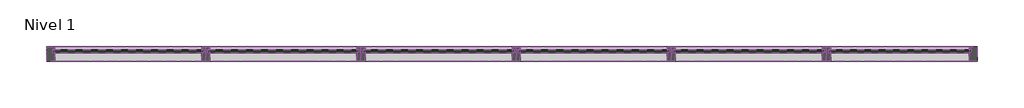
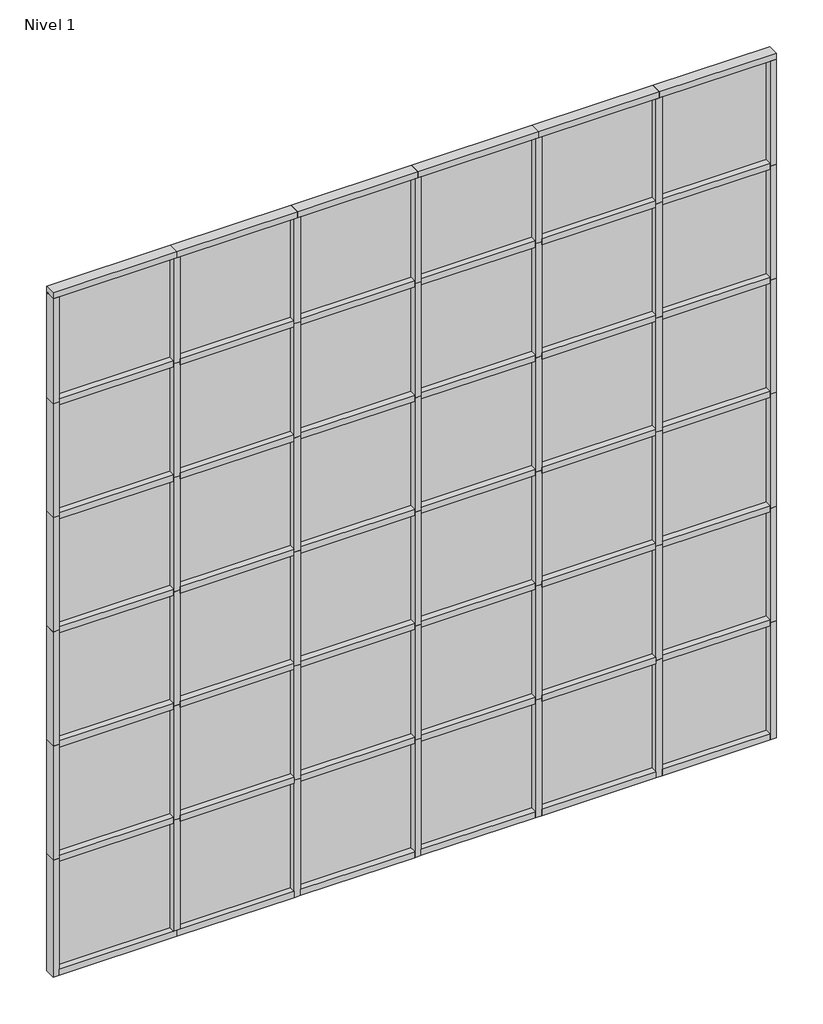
# One storey, part 1 of 12: 84 members, 36 plates.
"""IFC4 building model written with IfcOpenShell, lengths in millimetres."""

from ifc_helpers import new_model, si_unit, origin, place, context, project, spatial, transform, mapped, element, save
from components import montante_rectangular_montante_rectangular_central_30_8_mm_2c331f7a, montante_rectangular_montante_rectangular_central_30_8_mm_c970fd36, montante_rectangular_montante_rectangular_central_30_8_mm_e5800b63, montante_rectangular_montante_rectangular_central_30_8_mm_53c3e57f, montante_rectangular_montante_rectangular_central_30_8_mm_d86f33cf, montante_rectangular_montante_rectangular_central_30_8_mm_2cc1dee6, montante_rectangular_montante_rectangular_extremo_1_30_8_mm_80b4f17c, montante_rectangular_montante_rectangular_extremo_1_30_8_mm_140b2925, montante_rectangular_montante_rectangular_extremo_1_30_8_mm_5074caf2, montante_rectangular_montante_rectangular_extremo_1_30_8_mm_62ab01bd, montante_rectangular_montante_rectangular_extremo_1_30_8_mm_7b62097b, montante_rectangular_montante_rectangular_extremo_1_30_8_mm_4f2bc4b4, plate_e0fb009f, plate_7c9cb06b, plate_31a977c4, plate_dd025fa3

model = new_model("IFC4")

# Units and contexts
model_context = context("Model", 3, world=origin())
ifc_project = project(units=[si_unit("LENGTHUNIT", "METRE", prefix="MILLI")], contexts=[model_context])

# Site, building, storey
site = spatial("IfcSite", under=ifc_project)
building = spatial("IfcBuilding", under=site)
storey = spatial("IfcBuildingStorey", under=building, Name="Nivel 1", Elevation=0.0)

# Members
placement = place(None, origin())
montante_rectangular_montante_rectangular_central_30_8_mm_shape = montante_rectangular_montante_rectangular_central_30_8_mm_2c331f7a(model_context)
element("IfcMember", 1, ObjectType="Montante rectangular : Montante rectangular - Central_30.8 mm", at=placement, inside=storey, context=model_context, shape_type="MappedRepresentation", body=[
    mapped(montante_rectangular_montante_rectangular_central_30_8_mm_shape, transform((-146117.5480244, 4524.4730809, 1540.0), x_axis=(0.0, 0.0, 1.0), y_axis=(0.0, -1.0, 0.0), z_axis=(1.0, 0.0, 0.0))),
])
element("IfcMember", 2, ObjectType="Montante rectangular : Montante rectangular - Central_30.8 mm", at=placement, inside=storey, context=model_context, shape_type="MappedRepresentation", body=[
    mapped(montante_rectangular_montante_rectangular_central_30_8_mm_shape, transform((-144617.5480244, 4524.4730809, 1540.0), x_axis=(0.0, 0.0, 1.0), y_axis=(0.0, -1.0, 0.0), z_axis=(1.0, 0.0, 0.0))),
])
element("IfcMember", 3, ObjectType="Montante rectangular : Montante rectangular - Central_30.8 mm", at=placement, inside=storey, context=model_context, shape_type="MappedRepresentation", body=[
    mapped(montante_rectangular_montante_rectangular_central_30_8_mm_shape, transform((-143117.5480244, 4524.4730809, 1540.0), x_axis=(0.0, 0.0, 1.0), y_axis=(0.0, -1.0, 0.0), z_axis=(1.0, 0.0, 0.0))),
])
element("IfcMember", 4, ObjectType="Montante rectangular : Montante rectangular - Central_30.8 mm", at=placement, inside=storey, context=model_context, shape_type="MappedRepresentation", body=[
    mapped(montante_rectangular_montante_rectangular_central_30_8_mm_shape, transform((-141617.5480244, 4524.4730809, 1540.0), x_axis=(0.0, 0.0, 1.0), y_axis=(0.0, -1.0, 0.0), z_axis=(1.0, 0.0, 0.0))),
])
element("IfcMember", 5, ObjectType="Montante rectangular : Montante rectangular - Central_30.8 mm", at=placement, inside=storey, context=model_context, shape_type="MappedRepresentation", body=[
    mapped(montante_rectangular_montante_rectangular_central_30_8_mm_shape, transform((-140117.5480244, 4524.4730809, 1540.0), x_axis=(0.0, 0.0, 1.0), y_axis=(0.0, -1.0, 0.0), z_axis=(1.0, 0.0, 0.0))),
])
element("IfcMember", 6, ObjectType="Montante rectangular : Montante rectangular - Central_30.8 mm", at=placement, inside=storey, context=model_context, shape_type="MappedRepresentation", body=[
    mapped(montante_rectangular_montante_rectangular_central_30_8_mm_shape, transform((-146117.5480244, 4524.4730809, 3040.0), x_axis=(0.0, 0.0, 1.0), y_axis=(0.0, -1.0, 0.0), z_axis=(1.0, 0.0, 0.0))),
])
element("IfcMember", 7, ObjectType="Montante rectangular : Montante rectangular - Central_30.8 mm", at=placement, inside=storey, context=model_context, shape_type="MappedRepresentation", body=[
    mapped(montante_rectangular_montante_rectangular_central_30_8_mm_shape, transform((-144617.5480244, 4524.4730809, 3040.0), x_axis=(0.0, 0.0, 1.0), y_axis=(0.0, -1.0, 0.0), z_axis=(1.0, 0.0, 0.0))),
])
element("IfcMember", 8, ObjectType="Montante rectangular : Montante rectangular - Central_30.8 mm", at=placement, inside=storey, context=model_context, shape_type="MappedRepresentation", body=[
    mapped(montante_rectangular_montante_rectangular_central_30_8_mm_shape, transform((-143117.5480244, 4524.4730809, 3040.0), x_axis=(0.0, 0.0, 1.0), y_axis=(0.0, -1.0, 0.0), z_axis=(1.0, 0.0, 0.0))),
])
element("IfcMember", 9, ObjectType="Montante rectangular : Montante rectangular - Central_30.8 mm", at=placement, inside=storey, context=model_context, shape_type="MappedRepresentation", body=[
    mapped(montante_rectangular_montante_rectangular_central_30_8_mm_shape, transform((-141617.5480244, 4524.4730809, 3040.0), x_axis=(0.0, 0.0, 1.0), y_axis=(0.0, -1.0, 0.0), z_axis=(1.0, 0.0, 0.0))),
])
element("IfcMember", 10, ObjectType="Montante rectangular : Montante rectangular - Central_30.8 mm", at=placement, inside=storey, context=model_context, shape_type="MappedRepresentation", body=[
    mapped(montante_rectangular_montante_rectangular_central_30_8_mm_shape, transform((-140117.5480244, 4524.4730809, 3040.0), x_axis=(0.0, 0.0, 1.0), y_axis=(0.0, -1.0, 0.0), z_axis=(1.0, 0.0, 0.0))),
])
element("IfcMember", 11, ObjectType="Montante rectangular : Montante rectangular - Central_30.8 mm", at=placement, inside=storey, context=model_context, shape_type="MappedRepresentation", body=[
    mapped(montante_rectangular_montante_rectangular_central_30_8_mm_shape, transform((-146117.5480244, 4524.4730809, 4540.0), x_axis=(0.0, 0.0, 1.0), y_axis=(0.0, -1.0, 0.0), z_axis=(1.0, 0.0, 0.0))),
])
element("IfcMember", 12, ObjectType="Montante rectangular : Montante rectangular - Central_30.8 mm", at=placement, inside=storey, context=model_context, shape_type="MappedRepresentation", body=[
    mapped(montante_rectangular_montante_rectangular_central_30_8_mm_shape, transform((-144617.5480244, 4524.4730809, 4540.0), x_axis=(0.0, 0.0, 1.0), y_axis=(0.0, -1.0, 0.0), z_axis=(1.0, 0.0, 0.0))),
])
element("IfcMember", 13, ObjectType="Montante rectangular : Montante rectangular - Central_30.8 mm", at=placement, inside=storey, context=model_context, shape_type="MappedRepresentation", body=[
    mapped(montante_rectangular_montante_rectangular_central_30_8_mm_shape, transform((-143117.5480244, 4524.4730809, 4540.0), x_axis=(0.0, 0.0, 1.0), y_axis=(0.0, -1.0, 0.0), z_axis=(1.0, 0.0, 0.0))),
])
element("IfcMember", 14, ObjectType="Montante rectangular : Montante rectangular - Central_30.8 mm", at=placement, inside=storey, context=model_context, shape_type="MappedRepresentation", body=[
    mapped(montante_rectangular_montante_rectangular_central_30_8_mm_shape, transform((-141617.5480244, 4524.4730809, 4540.0), x_axis=(0.0, 0.0, 1.0), y_axis=(0.0, -1.0, 0.0), z_axis=(1.0, 0.0, 0.0))),
])
element("IfcMember", 15, ObjectType="Montante rectangular : Montante rectangular - Central_30.8 mm", at=placement, inside=storey, context=model_context, shape_type="MappedRepresentation", body=[
    mapped(montante_rectangular_montante_rectangular_central_30_8_mm_shape, transform((-140117.5480244, 4524.4730809, 4540.0), x_axis=(0.0, 0.0, 1.0), y_axis=(0.0, -1.0, 0.0), z_axis=(1.0, 0.0, 0.0))),
])
element("IfcMember", 16, ObjectType="Montante rectangular : Montante rectangular - Central_30.8 mm", at=placement, inside=storey, context=model_context, shape_type="MappedRepresentation", body=[
    mapped(montante_rectangular_montante_rectangular_central_30_8_mm_shape, transform((-146117.5480244, 4524.4730809, 6040.0), x_axis=(0.0, 0.0, 1.0), y_axis=(0.0, -1.0, 0.0), z_axis=(1.0, 0.0, 0.0))),
])
element("IfcMember", 17, ObjectType="Montante rectangular : Montante rectangular - Central_30.8 mm", at=placement, inside=storey, context=model_context, shape_type="MappedRepresentation", body=[
    mapped(montante_rectangular_montante_rectangular_central_30_8_mm_shape, transform((-144617.5480244, 4524.4730809, 6040.0), x_axis=(0.0, 0.0, 1.0), y_axis=(0.0, -1.0, 0.0), z_axis=(1.0, 0.0, 0.0))),
])
element("IfcMember", 18, ObjectType="Montante rectangular : Montante rectangular - Central_30.8 mm", at=placement, inside=storey, context=model_context, shape_type="MappedRepresentation", body=[
    mapped(montante_rectangular_montante_rectangular_central_30_8_mm_shape, transform((-143117.5480244, 4524.4730809, 6040.0), x_axis=(0.0, 0.0, 1.0), y_axis=(0.0, -1.0, 0.0), z_axis=(1.0, 0.0, 0.0))),
])
element("IfcMember", 19, ObjectType="Montante rectangular : Montante rectangular - Central_30.8 mm", at=placement, inside=storey, context=model_context, shape_type="MappedRepresentation", body=[
    mapped(montante_rectangular_montante_rectangular_central_30_8_mm_shape, transform((-141617.5480244, 4524.4730809, 6040.0), x_axis=(0.0, 0.0, 1.0), y_axis=(0.0, -1.0, 0.0), z_axis=(1.0, 0.0, 0.0))),
])
element("IfcMember", 20, ObjectType="Montante rectangular : Montante rectangular - Central_30.8 mm", at=placement, inside=storey, context=model_context, shape_type="MappedRepresentation", body=[
    mapped(montante_rectangular_montante_rectangular_central_30_8_mm_shape, transform((-140117.5480244, 4524.4730809, 6040.0), x_axis=(0.0, 0.0, 1.0), y_axis=(0.0, -1.0, 0.0), z_axis=(1.0, 0.0, 0.0))),
])
element("IfcMember", 21, ObjectType="Montante rectangular : Montante rectangular - Central_30.8 mm", at=placement, inside=storey, context=model_context, shape_type="MappedRepresentation", body=[
    mapped(montante_rectangular_montante_rectangular_central_30_8_mm_shape, transform((-146117.5480244, 4524.4730809, 7540.0), x_axis=(0.0, 0.0, 1.0), y_axis=(0.0, -1.0, 0.0), z_axis=(1.0, 0.0, 0.0))),
])
element("IfcMember", 22, ObjectType="Montante rectangular : Montante rectangular - Central_30.8 mm", at=placement, inside=storey, context=model_context, shape_type="MappedRepresentation", body=[
    mapped(montante_rectangular_montante_rectangular_central_30_8_mm_shape, transform((-144617.5480244, 4524.4730809, 7540.0), x_axis=(0.0, 0.0, 1.0), y_axis=(0.0, -1.0, 0.0), z_axis=(1.0, 0.0, 0.0))),
])
element("IfcMember", 23, ObjectType="Montante rectangular : Montante rectangular - Central_30.8 mm", at=placement, inside=storey, context=model_context, shape_type="MappedRepresentation", body=[
    mapped(montante_rectangular_montante_rectangular_central_30_8_mm_shape, transform((-143117.5480244, 4524.4730809, 7540.0), x_axis=(0.0, 0.0, 1.0), y_axis=(0.0, -1.0, 0.0), z_axis=(1.0, 0.0, 0.0))),
])
element("IfcMember", 24, ObjectType="Montante rectangular : Montante rectangular - Central_30.8 mm", at=placement, inside=storey, context=model_context, shape_type="MappedRepresentation", body=[
    mapped(montante_rectangular_montante_rectangular_central_30_8_mm_shape, transform((-141617.5480244, 4524.4730809, 7540.0), x_axis=(0.0, 0.0, 1.0), y_axis=(0.0, -1.0, 0.0), z_axis=(1.0, 0.0, 0.0))),
])
element("IfcMember", 25, ObjectType="Montante rectangular : Montante rectangular - Central_30.8 mm", at=placement, inside=storey, context=model_context, shape_type="MappedRepresentation", body=[
    mapped(montante_rectangular_montante_rectangular_central_30_8_mm_shape, transform((-140117.5480244, 4524.4730809, 7540.0), x_axis=(0.0, 0.0, 1.0), y_axis=(0.0, -1.0, 0.0), z_axis=(1.0, 0.0, 0.0))),
])
montante_rectangular_montante_rectangular_central_30_8_mm_2_shape = montante_rectangular_montante_rectangular_central_30_8_mm_c970fd36(model_context)
element("IfcMember", 26, ObjectType="Montante rectangular : Montante rectangular - Central_30.8 mm", at=placement, inside=storey, context=model_context, shape_type="MappedRepresentation", body=[
    mapped(montante_rectangular_montante_rectangular_central_30_8_mm_2_shape, transform((-146077.5480244, 4524.4730809, 80.0), x_axis=(1.0, 0.0, 0.0), y_axis=(0.0, -1.0, 0.0), z_axis=(0.0, 0.0, -1.0))),
])
montante_rectangular_montante_rectangular_central_30_8_mm_3_shape = montante_rectangular_montante_rectangular_central_30_8_mm_e5800b63(model_context)
element("IfcMember", 27, ObjectType="Montante rectangular : Montante rectangular - Central_30.8 mm", at=placement, inside=storey, context=model_context, shape_type="MappedRepresentation", body=[
    mapped(montante_rectangular_montante_rectangular_central_30_8_mm_3_shape, transform((-146077.5480244, 4524.4730809, 1540.0), x_axis=(1.0, 0.0, 0.0), y_axis=(0.0, -1.0, 0.0), z_axis=(0.0, 0.0, -1.0))),
])
element("IfcMember", 28, ObjectType="Montante rectangular : Montante rectangular - Central_30.8 mm", at=placement, inside=storey, context=model_context, shape_type="MappedRepresentation", body=[
    mapped(montante_rectangular_montante_rectangular_central_30_8_mm_3_shape, transform((-144577.5480244, 4524.4730809, 1540.0), x_axis=(1.0, 0.0, 0.0), y_axis=(0.0, -1.0, 0.0), z_axis=(0.0, 0.0, -1.0))),
])
element("IfcMember", 29, ObjectType="Montante rectangular : Montante rectangular - Central_30.8 mm", at=placement, inside=storey, context=model_context, shape_type="MappedRepresentation", body=[
    mapped(montante_rectangular_montante_rectangular_central_30_8_mm_3_shape, transform((-143077.5480244, 4524.4730809, 1540.0), x_axis=(1.0, 0.0, 0.0), y_axis=(0.0, -1.0, 0.0), z_axis=(0.0, 0.0, -1.0))),
])
element("IfcMember", 30, ObjectType="Montante rectangular : Montante rectangular - Central_30.8 mm", at=placement, inside=storey, context=model_context, shape_type="MappedRepresentation", body=[
    mapped(montante_rectangular_montante_rectangular_central_30_8_mm_3_shape, transform((-141577.5480244, 4524.4730809, 1540.0), x_axis=(1.0, 0.0, 0.0), y_axis=(0.0, -1.0, 0.0), z_axis=(0.0, 0.0, -1.0))),
])
element("IfcMember", 31, ObjectType="Montante rectangular : Montante rectangular - Central_30.8 mm", at=placement, inside=storey, context=model_context, shape_type="MappedRepresentation", body=[
    mapped(montante_rectangular_montante_rectangular_central_30_8_mm_3_shape, transform((-140077.5480244, 4524.4730809, 1540.0), x_axis=(1.0, 0.0, 0.0), y_axis=(0.0, -1.0, 0.0), z_axis=(0.0, 0.0, -1.0))),
])
element("IfcMember", 32, ObjectType="Montante rectangular : Montante rectangular - Central_30.8 mm", at=placement, inside=storey, context=model_context, shape_type="MappedRepresentation", body=[
    mapped(montante_rectangular_montante_rectangular_central_30_8_mm_3_shape, transform((-146077.5480244, 4524.4730809, 3040.0), x_axis=(1.0, 0.0, 0.0), y_axis=(0.0, -1.0, 0.0), z_axis=(0.0, 0.0, -1.0))),
])
element("IfcMember", 33, ObjectType="Montante rectangular : Montante rectangular - Central_30.8 mm", at=placement, inside=storey, context=model_context, shape_type="MappedRepresentation", body=[
    mapped(montante_rectangular_montante_rectangular_central_30_8_mm_3_shape, transform((-146077.5480244, 4524.4730809, 4540.0), x_axis=(1.0, 0.0, 0.0), y_axis=(0.0, -1.0, 0.0), z_axis=(0.0, 0.0, -1.0))),
])
element("IfcMember", 34, ObjectType="Montante rectangular : Montante rectangular - Central_30.8 mm", at=placement, inside=storey, context=model_context, shape_type="MappedRepresentation", body=[
    mapped(montante_rectangular_montante_rectangular_central_30_8_mm_3_shape, transform((-146077.5480244, 4524.4730809, 6040.0), x_axis=(1.0, 0.0, 0.0), y_axis=(0.0, -1.0, 0.0), z_axis=(0.0, 0.0, -1.0))),
])
element("IfcMember", 35, ObjectType="Montante rectangular : Montante rectangular - Central_30.8 mm", at=placement, inside=storey, context=model_context, shape_type="MappedRepresentation", body=[
    mapped(montante_rectangular_montante_rectangular_central_30_8_mm_3_shape, transform((-144577.5480244, 4524.4730809, 3040.0), x_axis=(1.0, 0.0, 0.0), y_axis=(0.0, -1.0, 0.0), z_axis=(0.0, 0.0, -1.0))),
])
element("IfcMember", 36, ObjectType="Montante rectangular : Montante rectangular - Central_30.8 mm", at=placement, inside=storey, context=model_context, shape_type="MappedRepresentation", body=[
    mapped(montante_rectangular_montante_rectangular_central_30_8_mm_3_shape, transform((-144577.5480244, 4524.4730809, 4540.0), x_axis=(1.0, 0.0, 0.0), y_axis=(0.0, -1.0, 0.0), z_axis=(0.0, 0.0, -1.0))),
])
element("IfcMember", 37, ObjectType="Montante rectangular : Montante rectangular - Central_30.8 mm", at=placement, inside=storey, context=model_context, shape_type="MappedRepresentation", body=[
    mapped(montante_rectangular_montante_rectangular_central_30_8_mm_3_shape, transform((-144577.5480244, 4524.4730809, 6040.0), x_axis=(1.0, 0.0, 0.0), y_axis=(0.0, -1.0, 0.0), z_axis=(0.0, 0.0, -1.0))),
])
element("IfcMember", 38, ObjectType="Montante rectangular : Montante rectangular - Central_30.8 mm", at=placement, inside=storey, context=model_context, shape_type="MappedRepresentation", body=[
    mapped(montante_rectangular_montante_rectangular_central_30_8_mm_3_shape, transform((-143077.5480244, 4524.4730809, 3040.0), x_axis=(1.0, 0.0, 0.0), y_axis=(0.0, -1.0, 0.0), z_axis=(0.0, 0.0, -1.0))),
])
element("IfcMember", 39, ObjectType="Montante rectangular : Montante rectangular - Central_30.8 mm", at=placement, inside=storey, context=model_context, shape_type="MappedRepresentation", body=[
    mapped(montante_rectangular_montante_rectangular_central_30_8_mm_3_shape, transform((-143077.5480244, 4524.4730809, 4540.0), x_axis=(1.0, 0.0, 0.0), y_axis=(0.0, -1.0, 0.0), z_axis=(0.0, 0.0, -1.0))),
])
element("IfcMember", 40, ObjectType="Montante rectangular : Montante rectangular - Central_30.8 mm", at=placement, inside=storey, context=model_context, shape_type="MappedRepresentation", body=[
    mapped(montante_rectangular_montante_rectangular_central_30_8_mm_3_shape, transform((-143077.5480244, 4524.4730809, 6040.0), x_axis=(1.0, 0.0, 0.0), y_axis=(0.0, -1.0, 0.0), z_axis=(0.0, 0.0, -1.0))),
])
element("IfcMember", 41, ObjectType="Montante rectangular : Montante rectangular - Central_30.8 mm", at=placement, inside=storey, context=model_context, shape_type="MappedRepresentation", body=[
    mapped(montante_rectangular_montante_rectangular_central_30_8_mm_3_shape, transform((-141577.5480244, 4524.4730809, 3040.0), x_axis=(1.0, 0.0, 0.0), y_axis=(0.0, -1.0, 0.0), z_axis=(0.0, 0.0, -1.0))),
])
element("IfcMember", 42, ObjectType="Montante rectangular : Montante rectangular - Central_30.8 mm", at=placement, inside=storey, context=model_context, shape_type="MappedRepresentation", body=[
    mapped(montante_rectangular_montante_rectangular_central_30_8_mm_3_shape, transform((-141577.5480244, 4524.4730809, 4540.0), x_axis=(1.0, 0.0, 0.0), y_axis=(0.0, -1.0, 0.0), z_axis=(0.0, 0.0, -1.0))),
])
element("IfcMember", 43, ObjectType="Montante rectangular : Montante rectangular - Central_30.8 mm", at=placement, inside=storey, context=model_context, shape_type="MappedRepresentation", body=[
    mapped(montante_rectangular_montante_rectangular_central_30_8_mm_3_shape, transform((-141577.5480244, 4524.4730809, 6040.0), x_axis=(1.0, 0.0, 0.0), y_axis=(0.0, -1.0, 0.0), z_axis=(0.0, 0.0, -1.0))),
])
element("IfcMember", 44, ObjectType="Montante rectangular : Montante rectangular - Central_30.8 mm", at=placement, inside=storey, context=model_context, shape_type="MappedRepresentation", body=[
    mapped(montante_rectangular_montante_rectangular_central_30_8_mm_3_shape, transform((-140077.5480244, 4524.4730809, 3040.0), x_axis=(1.0, 0.0, 0.0), y_axis=(0.0, -1.0, 0.0), z_axis=(0.0, 0.0, -1.0))),
])
element("IfcMember", 45, ObjectType="Montante rectangular : Montante rectangular - Central_30.8 mm", at=placement, inside=storey, context=model_context, shape_type="MappedRepresentation", body=[
    mapped(montante_rectangular_montante_rectangular_central_30_8_mm_3_shape, transform((-140077.5480244, 4524.4730809, 4540.0), x_axis=(1.0, 0.0, 0.0), y_axis=(0.0, -1.0, 0.0), z_axis=(0.0, 0.0, -1.0))),
])
element("IfcMember", 46, ObjectType="Montante rectangular : Montante rectangular - Central_30.8 mm", at=placement, inside=storey, context=model_context, shape_type="MappedRepresentation", body=[
    mapped(montante_rectangular_montante_rectangular_central_30_8_mm_3_shape, transform((-140077.5480244, 4524.4730809, 6040.0), x_axis=(1.0, 0.0, 0.0), y_axis=(0.0, -1.0, 0.0), z_axis=(0.0, 0.0, -1.0))),
])
montante_rectangular_montante_rectangular_central_30_8_mm_4_shape = montante_rectangular_montante_rectangular_central_30_8_mm_53c3e57f(model_context)
element("IfcMember", 47, ObjectType="Montante rectangular : Montante rectangular - Central_30.8 mm", at=placement, inside=storey, context=model_context, shape_type="MappedRepresentation", body=[
    mapped(montante_rectangular_montante_rectangular_central_30_8_mm_4_shape, transform((-144577.5480244, 4524.4730809, 0.0), x_axis=(1.0, 0.0, 0.0), y_axis=(0.0, -1.0, 0.0), z_axis=(0.0, 0.0, -1.0))),
])
element("IfcMember", 48, ObjectType="Montante rectangular : Montante rectangular - Central_30.8 mm", at=placement, inside=storey, context=model_context, shape_type="MappedRepresentation", body=[
    mapped(montante_rectangular_montante_rectangular_central_30_8_mm_4_shape, transform((-143077.5480244, 4524.4730809, 0.0), x_axis=(1.0, 0.0, 0.0), y_axis=(0.0, -1.0, 0.0), z_axis=(0.0, 0.0, -1.0))),
])
element("IfcMember", 49, ObjectType="Montante rectangular : Montante rectangular - Central_30.8 mm", at=placement, inside=storey, context=model_context, shape_type="MappedRepresentation", body=[
    mapped(montante_rectangular_montante_rectangular_central_30_8_mm_4_shape, transform((-141577.5480244, 4524.4730809, 0.0), x_axis=(1.0, 0.0, 0.0), y_axis=(0.0, -1.0, 0.0), z_axis=(0.0, 0.0, -1.0))),
])
element("IfcMember", 50, ObjectType="Montante rectangular : Montante rectangular - Central_30.8 mm", at=placement, inside=storey, context=model_context, shape_type="MappedRepresentation", body=[
    mapped(montante_rectangular_montante_rectangular_central_30_8_mm_4_shape, transform((-140077.5480244, 4524.4730809, 0.0), x_axis=(1.0, 0.0, 0.0), y_axis=(0.0, -1.0, 0.0), z_axis=(0.0, 0.0, -1.0))),
])
montante_rectangular_montante_rectangular_central_30_8_mm_5_shape = montante_rectangular_montante_rectangular_central_30_8_mm_d86f33cf(model_context)
element("IfcMember", 51, ObjectType="Montante rectangular : Montante rectangular - Central_30.8 mm", at=placement, inside=storey, context=model_context, shape_type="MappedRepresentation", body=[
    mapped(montante_rectangular_montante_rectangular_central_30_8_mm_5_shape, transform((-138697.5480244, 4524.4730809, 1540.0), x_axis=(0.0, 0.0, 1.0), y_axis=(0.0, -1.0, 0.0), z_axis=(1.0, 0.0, 0.0))),
])
element("IfcMember", 52, ObjectType="Montante rectangular : Montante rectangular - Central_30.8 mm", at=placement, inside=storey, context=model_context, shape_type="MappedRepresentation", body=[
    mapped(montante_rectangular_montante_rectangular_central_30_8_mm_5_shape, transform((-138697.5480244, 4524.4730809, 3040.0), x_axis=(0.0, 0.0, 1.0), y_axis=(0.0, -1.0, 0.0), z_axis=(1.0, 0.0, 0.0))),
])
element("IfcMember", 53, ObjectType="Montante rectangular : Montante rectangular - Central_30.8 mm", at=placement, inside=storey, context=model_context, shape_type="MappedRepresentation", body=[
    mapped(montante_rectangular_montante_rectangular_central_30_8_mm_5_shape, transform((-138697.5480244, 4524.4730809, 4540.0), x_axis=(0.0, 0.0, 1.0), y_axis=(0.0, -1.0, 0.0), z_axis=(1.0, 0.0, 0.0))),
])
element("IfcMember", 54, ObjectType="Montante rectangular : Montante rectangular - Central_30.8 mm", at=placement, inside=storey, context=model_context, shape_type="MappedRepresentation", body=[
    mapped(montante_rectangular_montante_rectangular_central_30_8_mm_5_shape, transform((-138697.5480244, 4524.4730809, 6040.0), x_axis=(0.0, 0.0, 1.0), y_axis=(0.0, -1.0, 0.0), z_axis=(1.0, 0.0, 0.0))),
])
element("IfcMember", 55, ObjectType="Montante rectangular : Montante rectangular - Central_30.8 mm", at=placement, inside=storey, context=model_context, shape_type="MappedRepresentation", body=[
    mapped(montante_rectangular_montante_rectangular_central_30_8_mm_5_shape, transform((-138697.5480244, 4524.4730809, 7540.0), x_axis=(0.0, 0.0, 1.0), y_axis=(0.0, -1.0, 0.0), z_axis=(1.0, 0.0, 0.0))),
])
montante_rectangular_montante_rectangular_central_30_8_mm_6_shape = montante_rectangular_montante_rectangular_central_30_8_mm_2cc1dee6(model_context)
element("IfcMember", 56, ObjectType="Montante rectangular : Montante rectangular - Central_30.8 mm", at=placement, inside=storey, context=model_context, shape_type="MappedRepresentation", body=[
    mapped(montante_rectangular_montante_rectangular_central_30_8_mm_6_shape, transform((-146077.5480244, 4524.4730809, 7540.0), x_axis=(1.0, 0.0, 0.0), y_axis=(0.0, -1.0, 0.0), z_axis=(0.0, 0.0, -1.0))),
])
element("IfcMember", 57, ObjectType="Montante rectangular : Montante rectangular - Central_30.8 mm", at=placement, inside=storey, context=model_context, shape_type="MappedRepresentation", body=[
    mapped(montante_rectangular_montante_rectangular_central_30_8_mm_6_shape, transform((-144577.5480244, 4524.4730809, 7540.0), x_axis=(1.0, 0.0, 0.0), y_axis=(0.0, -1.0, 0.0), z_axis=(0.0, 0.0, -1.0))),
])
element("IfcMember", 58, ObjectType="Montante rectangular : Montante rectangular - Central_30.8 mm", at=placement, inside=storey, context=model_context, shape_type="MappedRepresentation", body=[
    mapped(montante_rectangular_montante_rectangular_central_30_8_mm_6_shape, transform((-143077.5480244, 4524.4730809, 7540.0), x_axis=(1.0, 0.0, 0.0), y_axis=(0.0, -1.0, 0.0), z_axis=(0.0, 0.0, -1.0))),
])
element("IfcMember", 59, ObjectType="Montante rectangular : Montante rectangular - Central_30.8 mm", at=placement, inside=storey, context=model_context, shape_type="MappedRepresentation", body=[
    mapped(montante_rectangular_montante_rectangular_central_30_8_mm_6_shape, transform((-141577.5480244, 4524.4730809, 7540.0), x_axis=(1.0, 0.0, 0.0), y_axis=(0.0, -1.0, 0.0), z_axis=(0.0, 0.0, -1.0))),
])
element("IfcMember", 60, ObjectType="Montante rectangular : Montante rectangular - Central_30.8 mm", at=placement, inside=storey, context=model_context, shape_type="MappedRepresentation", body=[
    mapped(montante_rectangular_montante_rectangular_central_30_8_mm_6_shape, transform((-140077.5480244, 4524.4730809, 7540.0), x_axis=(1.0, 0.0, 0.0), y_axis=(0.0, -1.0, 0.0), z_axis=(0.0, 0.0, -1.0))),
])
montante_rectangular_montante_rectangular_extremo_1_30_8_mm_shape = montante_rectangular_montante_rectangular_extremo_1_30_8_mm_80b4f17c(model_context)
element("IfcMember", 61, ObjectType="Montante rectangular : Montante rectangular - Extremo 1_30.8 mm", at=placement, inside=storey, context=model_context, shape_type="MappedRepresentation", body=[
    mapped(montante_rectangular_montante_rectangular_extremo_1_30_8_mm_shape, transform((-147537.5480244, 4524.4730809, 0.0), x_axis=(0.0, 0.0, -1.0), y_axis=(0.0, -1.0, 0.0), z_axis=(-1.0, 0.0, 0.0))),
])
element("IfcMember", 62, ObjectType="Montante rectangular : Montante rectangular - Extremo 1_30.8 mm", at=placement, inside=storey, context=model_context, shape_type="MappedRepresentation", body=[
    mapped(montante_rectangular_montante_rectangular_extremo_1_30_8_mm_shape, transform((-146077.5480244, 4524.4730809, 0.0), x_axis=(0.0, 0.0, -1.0), y_axis=(0.0, -1.0, 0.0), z_axis=(-1.0, 0.0, 0.0))),
])
montante_rectangular_montante_rectangular_extremo_1_30_8_mm_2_shape = montante_rectangular_montante_rectangular_extremo_1_30_8_mm_140b2925(model_context)
element("IfcMember", 63, ObjectType="Montante rectangular : Montante rectangular - Extremo 1_30.8 mm", at=placement, inside=storey, context=model_context, shape_type="MappedRepresentation", body=[
    mapped(montante_rectangular_montante_rectangular_extremo_1_30_8_mm_2_shape, transform((-144537.5480244, 4524.4730809, 0.0), x_axis=(0.0, 0.0, -1.0), y_axis=(0.0, -1.0, 0.0), z_axis=(-1.0, 0.0, 0.0))),
])
element("IfcMember", 64, ObjectType="Montante rectangular : Montante rectangular - Extremo 1_30.8 mm", at=placement, inside=storey, context=model_context, shape_type="MappedRepresentation", body=[
    mapped(montante_rectangular_montante_rectangular_extremo_1_30_8_mm_2_shape, transform((-143037.5480244, 4524.4730809, 0.0), x_axis=(0.0, 0.0, -1.0), y_axis=(0.0, -1.0, 0.0), z_axis=(-1.0, 0.0, 0.0))),
])
element("IfcMember", 65, ObjectType="Montante rectangular : Montante rectangular - Extremo 1_30.8 mm", at=placement, inside=storey, context=model_context, shape_type="MappedRepresentation", body=[
    mapped(montante_rectangular_montante_rectangular_extremo_1_30_8_mm_2_shape, transform((-141537.5480244, 4524.4730809, 0.0), x_axis=(0.0, 0.0, -1.0), y_axis=(0.0, -1.0, 0.0), z_axis=(-1.0, 0.0, 0.0))),
])
montante_rectangular_montante_rectangular_extremo_1_30_8_mm_3_shape = montante_rectangular_montante_rectangular_extremo_1_30_8_mm_5074caf2(model_context)
element("IfcMember", 66, ObjectType="Montante rectangular : Montante rectangular - Extremo 1_30.8 mm", at=placement, inside=storey, context=model_context, shape_type="MappedRepresentation", body=[
    mapped(montante_rectangular_montante_rectangular_extremo_1_30_8_mm_3_shape, transform((-140037.5480244, 4524.4730809, 0.0), x_axis=(0.0, 0.0, -1.0), y_axis=(0.0, -1.0, 0.0), z_axis=(-1.0, 0.0, 0.0))),
])
montante_rectangular_montante_rectangular_extremo_1_30_8_mm_4_shape = montante_rectangular_montante_rectangular_extremo_1_30_8_mm_62ab01bd(model_context)
element("IfcMember", 67, ObjectType="Montante rectangular : Montante rectangular - Extremo 1_30.8 mm", at=placement, inside=storey, context=model_context, shape_type="MappedRepresentation", body=[
    mapped(montante_rectangular_montante_rectangular_extremo_1_30_8_mm_4_shape, transform((-147617.5480244, 4524.4730809, 8920.0), x_axis=(-1.0, 0.0, 0.0), y_axis=(0.0, -1.0, 0.0), z_axis=(0.0, 0.0, 1.0))),
])
montante_rectangular_montante_rectangular_extremo_1_30_8_mm_5_shape = montante_rectangular_montante_rectangular_extremo_1_30_8_mm_7b62097b(model_context)
element("IfcMember", 68, ObjectType="Montante rectangular : Montante rectangular - Extremo 1_30.8 mm", at=placement, inside=storey, context=model_context, shape_type="MappedRepresentation", body=[
    mapped(montante_rectangular_montante_rectangular_extremo_1_30_8_mm_5_shape, transform((-147617.5480244, 4524.4730809, 1540.0), x_axis=(-1.0, 0.0, 0.0), y_axis=(0.0, -1.0, 0.0), z_axis=(0.0, 0.0, 1.0))),
])
montante_rectangular_montante_rectangular_extremo_1_30_8_mm_6_shape = montante_rectangular_montante_rectangular_extremo_1_30_8_mm_4f2bc4b4(model_context)
element("IfcMember", 69, ObjectType="Montante rectangular : Montante rectangular - Extremo 1_30.8 mm", at=placement, inside=storey, context=model_context, shape_type="MappedRepresentation", body=[
    mapped(montante_rectangular_montante_rectangular_extremo_1_30_8_mm_6_shape, transform((-147617.5480244, 4524.4730809, 3040.0), x_axis=(-1.0, 0.0, 0.0), y_axis=(0.0, -1.0, 0.0), z_axis=(0.0, 0.0, 1.0))),
])
element("IfcMember", 70, ObjectType="Montante rectangular : Montante rectangular - Extremo 1_30.8 mm", at=placement, inside=storey, context=model_context, shape_type="MappedRepresentation", body=[
    mapped(montante_rectangular_montante_rectangular_extremo_1_30_8_mm_6_shape, transform((-147617.5480244, 4524.4730809, 4540.0), x_axis=(-1.0, 0.0, 0.0), y_axis=(0.0, -1.0, 0.0), z_axis=(0.0, 0.0, 1.0))),
])
element("IfcMember", 71, ObjectType="Montante rectangular : Montante rectangular - Extremo 1_30.8 mm", at=placement, inside=storey, context=model_context, shape_type="MappedRepresentation", body=[
    mapped(montante_rectangular_montante_rectangular_extremo_1_30_8_mm_6_shape, transform((-147617.5480244, 4524.4730809, 6040.0), x_axis=(-1.0, 0.0, 0.0), y_axis=(0.0, -1.0, 0.0), z_axis=(0.0, 0.0, 1.0))),
])
element("IfcMember", 72, ObjectType="Montante rectangular : Montante rectangular - Extremo 1_30.8 mm", at=placement, inside=storey, context=model_context, shape_type="MappedRepresentation", body=[
    mapped(montante_rectangular_montante_rectangular_extremo_1_30_8_mm_6_shape, transform((-147617.5480244, 4524.4730809, 7540.0), x_axis=(-1.0, 0.0, 0.0), y_axis=(0.0, -1.0, 0.0), z_axis=(0.0, 0.0, 1.0))),
])
element("IfcMember", 73, ObjectType="Montante rectangular : Montante rectangular - Extremo 2_30.8 mm", at=placement, inside=storey, context=model_context, shape_type="MappedRepresentation", body=[
    mapped(montante_rectangular_montante_rectangular_extremo_1_30_8_mm_shape, transform((-138617.5480244, 4524.4730809, 9000.0), x_axis=(0.0, 0.0, 1.0), y_axis=(0.0, -1.0, 0.0), z_axis=(1.0, 0.0, 0.0))),
])
element("IfcMember", 74, ObjectType="Montante rectangular : Montante rectangular - Extremo 2_30.8 mm", at=placement, inside=storey, context=model_context, shape_type="MappedRepresentation", body=[
    mapped(montante_rectangular_montante_rectangular_extremo_1_30_8_mm_5_shape, transform((-146077.5480244, 4524.4730809, 9000.0), x_axis=(0.0, 0.0, 1.0), y_axis=(0.0, -1.0, 0.0), z_axis=(1.0, 0.0, 0.0))),
])
element("IfcMember", 75, ObjectType="Montante rectangular : Montante rectangular - Extremo 2_30.8 mm", at=placement, inside=storey, context=model_context, shape_type="MappedRepresentation", body=[
    mapped(montante_rectangular_montante_rectangular_extremo_1_30_8_mm_6_shape, transform((-144577.5480244, 4524.4730809, 9000.0), x_axis=(0.0, 0.0, 1.0), y_axis=(0.0, -1.0, 0.0), z_axis=(1.0, 0.0, 0.0))),
])
element("IfcMember", 76, ObjectType="Montante rectangular : Montante rectangular - Extremo 2_30.8 mm", at=placement, inside=storey, context=model_context, shape_type="MappedRepresentation", body=[
    mapped(montante_rectangular_montante_rectangular_extremo_1_30_8_mm_6_shape, transform((-143077.5480244, 4524.4730809, 9000.0), x_axis=(0.0, 0.0, 1.0), y_axis=(0.0, -1.0, 0.0), z_axis=(1.0, 0.0, 0.0))),
])
element("IfcMember", 77, ObjectType="Montante rectangular : Montante rectangular - Extremo 2_30.8 mm", at=placement, inside=storey, context=model_context, shape_type="MappedRepresentation", body=[
    mapped(montante_rectangular_montante_rectangular_extremo_1_30_8_mm_6_shape, transform((-141577.5480244, 4524.4730809, 9000.0), x_axis=(0.0, 0.0, 1.0), y_axis=(0.0, -1.0, 0.0), z_axis=(1.0, 0.0, 0.0))),
])
element("IfcMember", 78, ObjectType="Montante rectangular : Montante rectangular - Extremo 2_30.8 mm", at=placement, inside=storey, context=model_context, shape_type="MappedRepresentation", body=[
    mapped(montante_rectangular_montante_rectangular_extremo_1_30_8_mm_6_shape, transform((-140077.5480244, 4524.4730809, 9000.0), x_axis=(0.0, 0.0, 1.0), y_axis=(0.0, -1.0, 0.0), z_axis=(1.0, 0.0, 0.0))),
])
element("IfcMember", 79, ObjectType="Montante rectangular : Montante rectangular - Extremo 2_30.8 mm", at=placement, inside=storey, context=model_context, shape_type="MappedRepresentation", body=[
    mapped(montante_rectangular_montante_rectangular_extremo_1_30_8_mm_5_shape, transform((-138617.5480244, 4524.4730809, 0.0), x_axis=(1.0, 0.0, 0.0), y_axis=(0.0, -1.0, 0.0), z_axis=(0.0, 0.0, -1.0))),
])
element("IfcMember", 80, ObjectType="Montante rectangular : Montante rectangular - Extremo 2_30.8 mm", at=placement, inside=storey, context=model_context, shape_type="MappedRepresentation", body=[
    mapped(montante_rectangular_montante_rectangular_extremo_1_30_8_mm_6_shape, transform((-138617.5480244, 4524.4730809, 1540.0), x_axis=(1.0, 0.0, 0.0), y_axis=(0.0, -1.0, 0.0), z_axis=(0.0, 0.0, -1.0))),
])
element("IfcMember", 81, ObjectType="Montante rectangular : Montante rectangular - Extremo 2_30.8 mm", at=placement, inside=storey, context=model_context, shape_type="MappedRepresentation", body=[
    mapped(montante_rectangular_montante_rectangular_extremo_1_30_8_mm_6_shape, transform((-138617.5480244, 4524.4730809, 3040.0), x_axis=(1.0, 0.0, 0.0), y_axis=(0.0, -1.0, 0.0), z_axis=(0.0, 0.0, -1.0))),
])
element("IfcMember", 82, ObjectType="Montante rectangular : Montante rectangular - Extremo 2_30.8 mm", at=placement, inside=storey, context=model_context, shape_type="MappedRepresentation", body=[
    mapped(montante_rectangular_montante_rectangular_extremo_1_30_8_mm_6_shape, transform((-138617.5480244, 4524.4730809, 4540.0), x_axis=(1.0, 0.0, 0.0), y_axis=(0.0, -1.0, 0.0), z_axis=(0.0, 0.0, -1.0))),
])
element("IfcMember", 83, ObjectType="Montante rectangular : Montante rectangular - Extremo 2_30.8 mm", at=placement, inside=storey, context=model_context, shape_type="MappedRepresentation", body=[
    mapped(montante_rectangular_montante_rectangular_extremo_1_30_8_mm_6_shape, transform((-138617.5480244, 4524.4730809, 6040.0), x_axis=(1.0, 0.0, 0.0), y_axis=(0.0, -1.0, 0.0), z_axis=(0.0, 0.0, -1.0))),
])
element("IfcMember", 84, ObjectType="Montante rectangular : Montante rectangular - Extremo 2_30.8 mm", at=placement, inside=storey, context=model_context, shape_type="MappedRepresentation", body=[
    mapped(montante_rectangular_montante_rectangular_extremo_1_30_8_mm_4_shape, transform((-138617.5480244, 4524.4730809, 7540.0), x_axis=(1.0, 0.0, 0.0), y_axis=(0.0, -1.0, 0.0), z_axis=(0.0, 0.0, -1.0))),
])

# Plates
plate_shape = plate_e0fb009f(model_context)
element("IfcPlate", 85, ObjectType="2014_Panel-Cristal-MC_SGG_COOL-LITE-ST 408 : CLIMALIT PLUS con COOL LITE ST 408 F2 6 (16 argon90%) 44.2", at=placement, inside=storey, context=model_context, shape_type="MappedRepresentation", body=[
    mapped(plate_shape, transform((-146827.5480244, 4524.4730809, 80.0), x_axis=(1.0, 0.0, 0.0), y_axis=(0.0, 1.0, 0.0), z_axis=(0.0, 0.0, 1.0))),
])
element("IfcPlate", 86, ObjectType="2014_Panel-Cristal-MC_SGG_COOL-LITE-ST 408 : CLIMALIT PLUS con COOL LITE ST 408 F2 6 (16 argon90%) 44.2", at=placement, inside=storey, context=model_context, shape_type="MappedRepresentation", body=[
    mapped(plate_shape, transform((-146827.5480244, 4524.4730809, 1580.0), x_axis=(1.0, 0.0, 0.0), y_axis=(0.0, 1.0, 0.0), z_axis=(0.0, 0.0, 1.0))),
])
element("IfcPlate", 87, ObjectType="2014_Panel-Cristal-MC_SGG_COOL-LITE-ST 408 : CLIMALIT PLUS con COOL LITE ST 408 F2 6 (16 argon90%) 44.2", at=placement, inside=storey, context=model_context, shape_type="MappedRepresentation", body=[
    mapped(plate_shape, transform((-146827.5480244, 4524.4730809, 3080.0), x_axis=(1.0, 0.0, 0.0), y_axis=(0.0, 1.0, 0.0), z_axis=(0.0, 0.0, 1.0))),
])
element("IfcPlate", 88, ObjectType="2014_Panel-Cristal-MC_SGG_COOL-LITE-ST 408 : CLIMALIT PLUS con COOL LITE ST 408 F2 6 (16 argon90%) 44.2", at=placement, inside=storey, context=model_context, shape_type="MappedRepresentation", body=[
    mapped(plate_shape, transform((-146827.5480244, 4524.4730809, 4580.0), x_axis=(1.0, 0.0, 0.0), y_axis=(0.0, 1.0, 0.0), z_axis=(0.0, 0.0, 1.0))),
])
element("IfcPlate", 89, ObjectType="2014_Panel-Cristal-MC_SGG_COOL-LITE-ST 408 : CLIMALIT PLUS con COOL LITE ST 408 F2 6 (16 argon90%) 44.2", at=placement, inside=storey, context=model_context, shape_type="MappedRepresentation", body=[
    mapped(plate_shape, transform((-146827.5480244, 4524.4730809, 6080.0), x_axis=(1.0, 0.0, 0.0), y_axis=(0.0, 1.0, 0.0), z_axis=(0.0, 0.0, 1.0))),
])
element("IfcPlate", 90, ObjectType="2014_Panel-Cristal-MC_SGG_COOL-LITE-ST 408 : CLIMALIT PLUS con COOL LITE ST 408 F2 6 (16 argon90%) 44.2", at=placement, inside=storey, context=model_context, shape_type="MappedRepresentation", body=[
    mapped(plate_shape, transform((-145327.5480244, 4524.4730809, 80.0), x_axis=(1.0, 0.0, 0.0), y_axis=(0.0, 1.0, 0.0), z_axis=(0.0, 0.0, 1.0))),
])
element("IfcPlate", 91, ObjectType="2014_Panel-Cristal-MC_SGG_COOL-LITE-ST 408 : CLIMALIT PLUS con COOL LITE ST 408 F2 6 (16 argon90%) 44.2", at=placement, inside=storey, context=model_context, shape_type="MappedRepresentation", body=[
    mapped(plate_shape, transform((-145327.5480244, 4524.4730809, 1580.0), x_axis=(1.0, 0.0, 0.0), y_axis=(0.0, 1.0, 0.0), z_axis=(0.0, 0.0, 1.0))),
])
element("IfcPlate", 92, ObjectType="2014_Panel-Cristal-MC_SGG_COOL-LITE-ST 408 : CLIMALIT PLUS con COOL LITE ST 408 F2 6 (16 argon90%) 44.2", at=placement, inside=storey, context=model_context, shape_type="MappedRepresentation", body=[
    mapped(plate_shape, transform((-145327.5480244, 4524.4730809, 3080.0), x_axis=(1.0, 0.0, 0.0), y_axis=(0.0, 1.0, 0.0), z_axis=(0.0, 0.0, 1.0))),
])
element("IfcPlate", 93, ObjectType="2014_Panel-Cristal-MC_SGG_COOL-LITE-ST 408 : CLIMALIT PLUS con COOL LITE ST 408 F2 6 (16 argon90%) 44.2", at=placement, inside=storey, context=model_context, shape_type="MappedRepresentation", body=[
    mapped(plate_shape, transform((-145327.5480244, 4524.4730809, 4580.0), x_axis=(1.0, 0.0, 0.0), y_axis=(0.0, 1.0, 0.0), z_axis=(0.0, 0.0, 1.0))),
])
element("IfcPlate", 94, ObjectType="2014_Panel-Cristal-MC_SGG_COOL-LITE-ST 408 : CLIMALIT PLUS con COOL LITE ST 408 F2 6 (16 argon90%) 44.2", at=placement, inside=storey, context=model_context, shape_type="MappedRepresentation", body=[
    mapped(plate_shape, transform((-145327.5480244, 4524.4730809, 6080.0), x_axis=(1.0, 0.0, 0.0), y_axis=(0.0, 1.0, 0.0), z_axis=(0.0, 0.0, 1.0))),
])
element("IfcPlate", 95, ObjectType="2014_Panel-Cristal-MC_SGG_COOL-LITE-ST 408 : CLIMALIT PLUS con COOL LITE ST 408 F2 6 (16 argon90%) 44.2", at=placement, inside=storey, context=model_context, shape_type="MappedRepresentation", body=[
    mapped(plate_shape, transform((-143827.5480244, 4524.4730809, 80.0), x_axis=(1.0, 0.0, 0.0), y_axis=(0.0, 1.0, 0.0), z_axis=(0.0, 0.0, 1.0))),
])
element("IfcPlate", 96, ObjectType="2014_Panel-Cristal-MC_SGG_COOL-LITE-ST 408 : CLIMALIT PLUS con COOL LITE ST 408 F2 6 (16 argon90%) 44.2", at=placement, inside=storey, context=model_context, shape_type="MappedRepresentation", body=[
    mapped(plate_shape, transform((-143827.5480244, 4524.4730809, 1580.0), x_axis=(1.0, 0.0, 0.0), y_axis=(0.0, 1.0, 0.0), z_axis=(0.0, 0.0, 1.0))),
])
element("IfcPlate", 97, ObjectType="2014_Panel-Cristal-MC_SGG_COOL-LITE-ST 408 : CLIMALIT PLUS con COOL LITE ST 408 F2 6 (16 argon90%) 44.2", at=placement, inside=storey, context=model_context, shape_type="MappedRepresentation", body=[
    mapped(plate_shape, transform((-143827.5480244, 4524.4730809, 3080.0), x_axis=(1.0, 0.0, 0.0), y_axis=(0.0, 1.0, 0.0), z_axis=(0.0, 0.0, 1.0))),
])
element("IfcPlate", 98, ObjectType="2014_Panel-Cristal-MC_SGG_COOL-LITE-ST 408 : CLIMALIT PLUS con COOL LITE ST 408 F2 6 (16 argon90%) 44.2", at=placement, inside=storey, context=model_context, shape_type="MappedRepresentation", body=[
    mapped(plate_shape, transform((-143827.5480244, 4524.4730809, 4580.0), x_axis=(1.0, 0.0, 0.0), y_axis=(0.0, 1.0, 0.0), z_axis=(0.0, 0.0, 1.0))),
])
element("IfcPlate", 99, ObjectType="2014_Panel-Cristal-MC_SGG_COOL-LITE-ST 408 : CLIMALIT PLUS con COOL LITE ST 408 F2 6 (16 argon90%) 44.2", at=placement, inside=storey, context=model_context, shape_type="MappedRepresentation", body=[
    mapped(plate_shape, transform((-143827.5480244, 4524.4730809, 6080.0), x_axis=(1.0, 0.0, 0.0), y_axis=(0.0, 1.0, 0.0), z_axis=(0.0, 0.0, 1.0))),
])
element("IfcPlate", 100, ObjectType="2014_Panel-Cristal-MC_SGG_COOL-LITE-ST 408 : CLIMALIT PLUS con COOL LITE ST 408 F2 6 (16 argon90%) 44.2", at=placement, inside=storey, context=model_context, shape_type="MappedRepresentation", body=[
    mapped(plate_shape, transform((-142327.5480244, 4524.4730809, 80.0), x_axis=(1.0, 0.0, 0.0), y_axis=(0.0, 1.0, 0.0), z_axis=(0.0, 0.0, 1.0))),
])
element("IfcPlate", 101, ObjectType="2014_Panel-Cristal-MC_SGG_COOL-LITE-ST 408 : CLIMALIT PLUS con COOL LITE ST 408 F2 6 (16 argon90%) 44.2", at=placement, inside=storey, context=model_context, shape_type="MappedRepresentation", body=[
    mapped(plate_shape, transform((-142327.5480244, 4524.4730809, 1580.0), x_axis=(1.0, 0.0, 0.0), y_axis=(0.0, 1.0, 0.0), z_axis=(0.0, 0.0, 1.0))),
])
element("IfcPlate", 102, ObjectType="2014_Panel-Cristal-MC_SGG_COOL-LITE-ST 408 : CLIMALIT PLUS con COOL LITE ST 408 F2 6 (16 argon90%) 44.2", at=placement, inside=storey, context=model_context, shape_type="MappedRepresentation", body=[
    mapped(plate_shape, transform((-142327.5480244, 4524.4730809, 3080.0), x_axis=(1.0, 0.0, 0.0), y_axis=(0.0, 1.0, 0.0), z_axis=(0.0, 0.0, 1.0))),
])
element("IfcPlate", 103, ObjectType="2014_Panel-Cristal-MC_SGG_COOL-LITE-ST 408 : CLIMALIT PLUS con COOL LITE ST 408 F2 6 (16 argon90%) 44.2", at=placement, inside=storey, context=model_context, shape_type="MappedRepresentation", body=[
    mapped(plate_shape, transform((-142327.5480244, 4524.4730809, 4580.0), x_axis=(1.0, 0.0, 0.0), y_axis=(0.0, 1.0, 0.0), z_axis=(0.0, 0.0, 1.0))),
])
element("IfcPlate", 104, ObjectType="2014_Panel-Cristal-MC_SGG_COOL-LITE-ST 408 : CLIMALIT PLUS con COOL LITE ST 408 F2 6 (16 argon90%) 44.2", at=placement, inside=storey, context=model_context, shape_type="MappedRepresentation", body=[
    mapped(plate_shape, transform((-142327.5480244, 4524.4730809, 6080.0), x_axis=(1.0, 0.0, 0.0), y_axis=(0.0, 1.0, 0.0), z_axis=(0.0, 0.0, 1.0))),
])
element("IfcPlate", 105, ObjectType="2014_Panel-Cristal-MC_SGG_COOL-LITE-ST 408 : CLIMALIT PLUS con COOL LITE ST 408 F2 6 (16 argon90%) 44.2", at=placement, inside=storey, context=model_context, shape_type="MappedRepresentation", body=[
    mapped(plate_shape, transform((-140827.5480244, 4524.4730809, 80.0), x_axis=(1.0, 0.0, 0.0), y_axis=(0.0, 1.0, 0.0), z_axis=(0.0, 0.0, 1.0))),
])
element("IfcPlate", 106, ObjectType="2014_Panel-Cristal-MC_SGG_COOL-LITE-ST 408 : CLIMALIT PLUS con COOL LITE ST 408 F2 6 (16 argon90%) 44.2", at=placement, inside=storey, context=model_context, shape_type="MappedRepresentation", body=[
    mapped(plate_shape, transform((-140827.5480244, 4524.4730809, 1580.0), x_axis=(1.0, 0.0, 0.0), y_axis=(0.0, 1.0, 0.0), z_axis=(0.0, 0.0, 1.0))),
])
element("IfcPlate", 107, ObjectType="2014_Panel-Cristal-MC_SGG_COOL-LITE-ST 408 : CLIMALIT PLUS con COOL LITE ST 408 F2 6 (16 argon90%) 44.2", at=placement, inside=storey, context=model_context, shape_type="MappedRepresentation", body=[
    mapped(plate_shape, transform((-140827.5480244, 4524.4730809, 3080.0), x_axis=(1.0, 0.0, 0.0), y_axis=(0.0, 1.0, 0.0), z_axis=(0.0, 0.0, 1.0))),
])
element("IfcPlate", 108, ObjectType="2014_Panel-Cristal-MC_SGG_COOL-LITE-ST 408 : CLIMALIT PLUS con COOL LITE ST 408 F2 6 (16 argon90%) 44.2", at=placement, inside=storey, context=model_context, shape_type="MappedRepresentation", body=[
    mapped(plate_shape, transform((-140827.5480244, 4524.4730809, 4580.0), x_axis=(1.0, 0.0, 0.0), y_axis=(0.0, 1.0, 0.0), z_axis=(0.0, 0.0, 1.0))),
])
element("IfcPlate", 109, ObjectType="2014_Panel-Cristal-MC_SGG_COOL-LITE-ST 408 : CLIMALIT PLUS con COOL LITE ST 408 F2 6 (16 argon90%) 44.2", at=placement, inside=storey, context=model_context, shape_type="MappedRepresentation", body=[
    mapped(plate_shape, transform((-140827.5480244, 4524.4730809, 6080.0), x_axis=(1.0, 0.0, 0.0), y_axis=(0.0, 1.0, 0.0), z_axis=(0.0, 0.0, 1.0))),
])
plate_2_shape = plate_7c9cb06b(model_context)
element("IfcPlate", 110, ObjectType="2014_Panel-Cristal-MC_SGG_COOL-LITE-ST 408 : CLIMALIT PLUS con COOL LITE ST 408 F2 6 (16 argon90%) 44.2", at=placement, inside=storey, context=model_context, shape_type="MappedRepresentation", body=[
    mapped(plate_2_shape, transform((-146827.5480244, 4524.4730809, 7580.0), x_axis=(1.0, 0.0, 0.0), y_axis=(0.0, 1.0, 0.0), z_axis=(0.0, 0.0, 1.0))),
])
element("IfcPlate", 111, ObjectType="2014_Panel-Cristal-MC_SGG_COOL-LITE-ST 408 : CLIMALIT PLUS con COOL LITE ST 408 F2 6 (16 argon90%) 44.2", at=placement, inside=storey, context=model_context, shape_type="MappedRepresentation", body=[
    mapped(plate_2_shape, transform((-145327.5480244, 4524.4730809, 7580.0), x_axis=(1.0, 0.0, 0.0), y_axis=(0.0, 1.0, 0.0), z_axis=(0.0, 0.0, 1.0))),
])
element("IfcPlate", 112, ObjectType="2014_Panel-Cristal-MC_SGG_COOL-LITE-ST 408 : CLIMALIT PLUS con COOL LITE ST 408 F2 6 (16 argon90%) 44.2", at=placement, inside=storey, context=model_context, shape_type="MappedRepresentation", body=[
    mapped(plate_2_shape, transform((-143827.5480244, 4524.4730809, 7580.0), x_axis=(1.0, 0.0, 0.0), y_axis=(0.0, 1.0, 0.0), z_axis=(0.0, 0.0, 1.0))),
])
element("IfcPlate", 113, ObjectType="2014_Panel-Cristal-MC_SGG_COOL-LITE-ST 408 : CLIMALIT PLUS con COOL LITE ST 408 F2 6 (16 argon90%) 44.2", at=placement, inside=storey, context=model_context, shape_type="MappedRepresentation", body=[
    mapped(plate_2_shape, transform((-142327.5480244, 4524.4730809, 7580.0), x_axis=(1.0, 0.0, 0.0), y_axis=(0.0, 1.0, 0.0), z_axis=(0.0, 0.0, 1.0))),
])
element("IfcPlate", 114, ObjectType="2014_Panel-Cristal-MC_SGG_COOL-LITE-ST 408 : CLIMALIT PLUS con COOL LITE ST 408 F2 6 (16 argon90%) 44.2", at=placement, inside=storey, context=model_context, shape_type="MappedRepresentation", body=[
    mapped(plate_2_shape, transform((-140827.5480244, 4524.4730809, 7580.0), x_axis=(1.0, 0.0, 0.0), y_axis=(0.0, 1.0, 0.0), z_axis=(0.0, 0.0, 1.0))),
])
plate_3_shape = plate_31a977c4(model_context)
element("IfcPlate", 115, ObjectType="2014_Panel-Cristal-MC_SGG_COOL-LITE-ST 408 : CLIMALIT PLUS con COOL LITE ST 408 F2 6 (16 argon90%) 44.2", at=placement, inside=storey, context=model_context, shape_type="MappedRepresentation", body=[
    mapped(plate_3_shape, transform((-139367.5480244, 4524.4730809, 80.0), x_axis=(1.0, 0.0, 0.0), y_axis=(0.0, 1.0, 0.0), z_axis=(0.0, 0.0, 1.0))),
])
element("IfcPlate", 116, ObjectType="2014_Panel-Cristal-MC_SGG_COOL-LITE-ST 408 : CLIMALIT PLUS con COOL LITE ST 408 F2 6 (16 argon90%) 44.2", at=placement, inside=storey, context=model_context, shape_type="MappedRepresentation", body=[
    mapped(plate_3_shape, transform((-139367.5480244, 4524.4730809, 1580.0), x_axis=(1.0, 0.0, 0.0), y_axis=(0.0, 1.0, 0.0), z_axis=(0.0, 0.0, 1.0))),
])
element("IfcPlate", 117, ObjectType="2014_Panel-Cristal-MC_SGG_COOL-LITE-ST 408 : CLIMALIT PLUS con COOL LITE ST 408 F2 6 (16 argon90%) 44.2", at=placement, inside=storey, context=model_context, shape_type="MappedRepresentation", body=[
    mapped(plate_3_shape, transform((-139367.5480244, 4524.4730809, 3080.0), x_axis=(1.0, 0.0, 0.0), y_axis=(0.0, 1.0, 0.0), z_axis=(0.0, 0.0, 1.0))),
])
element("IfcPlate", 118, ObjectType="2014_Panel-Cristal-MC_SGG_COOL-LITE-ST 408 : CLIMALIT PLUS con COOL LITE ST 408 F2 6 (16 argon90%) 44.2", at=placement, inside=storey, context=model_context, shape_type="MappedRepresentation", body=[
    mapped(plate_3_shape, transform((-139367.5480244, 4524.4730809, 4580.0), x_axis=(1.0, 0.0, 0.0), y_axis=(0.0, 1.0, 0.0), z_axis=(0.0, 0.0, 1.0))),
])
element("IfcPlate", 119, ObjectType="2014_Panel-Cristal-MC_SGG_COOL-LITE-ST 408 : CLIMALIT PLUS con COOL LITE ST 408 F2 6 (16 argon90%) 44.2", at=placement, inside=storey, context=model_context, shape_type="MappedRepresentation", body=[
    mapped(plate_3_shape, transform((-139367.5480244, 4524.4730809, 6080.0), x_axis=(1.0, 0.0, 0.0), y_axis=(0.0, 1.0, 0.0), z_axis=(0.0, 0.0, 1.0))),
])
plate_4_shape = plate_dd025fa3(model_context)
element("IfcPlate", 120, ObjectType="2014_Panel-Cristal-MC_SGG_COOL-LITE-ST 408 : CLIMALIT PLUS con COOL LITE ST 408 F2 6 (16 argon90%) 44.2", at=placement, inside=storey, context=model_context, shape_type="MappedRepresentation", body=[
    mapped(plate_4_shape, transform((-139367.5480244, 4524.4730809, 7580.0), x_axis=(1.0, 0.0, 0.0), y_axis=(0.0, 1.0, 0.0), z_axis=(0.0, 0.0, 1.0))),
])

save(model, "model.ifc")
